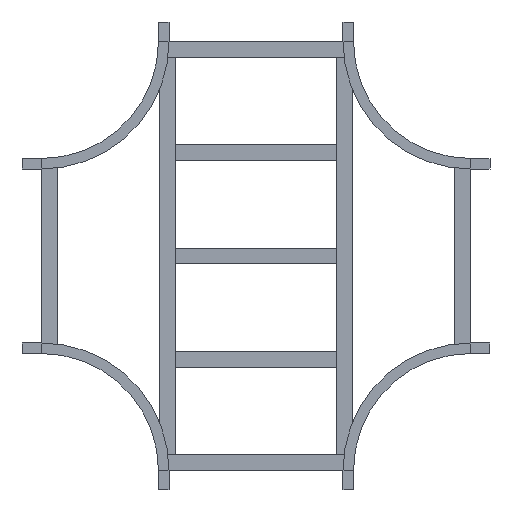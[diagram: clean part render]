
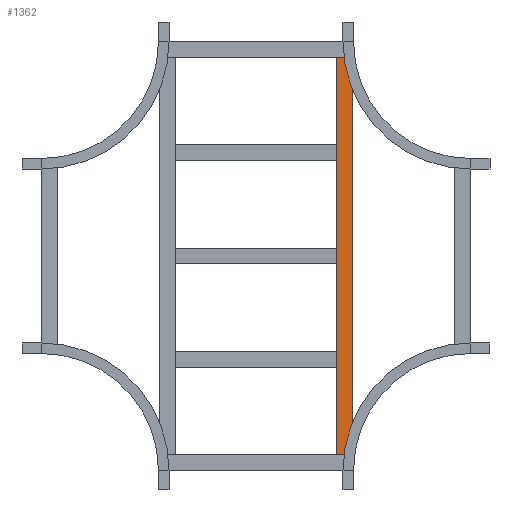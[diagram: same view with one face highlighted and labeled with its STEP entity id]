
A CAD part, front view. The second image highlights one B-rep face of the part: STEP entity #1362.
In plain terms, the highlighted planar face has unit normal (0, -1, 0).
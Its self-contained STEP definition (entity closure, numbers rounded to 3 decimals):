
#18 = VERTEX_POINT ( 'NONE', #494 ) ;
#53 = CARTESIAN_POINT ( 'NONE',  ( 509.5, 0., 20.25 ) ) ;
#89 = CARTESIAN_POINT ( 'NONE',  ( 509.5, 0., -20.25 ) ) ;
#136 = DIRECTION ( 'NONE',  ( -1., 0., 0. ) ) ;
#144 = DIRECTION ( 'NONE',  ( -1., 0., 0. ) ) ;
#150 = VECTOR ( 'NONE', #136, 1000. ) ;
#152 = EDGE_CURVE ( 'NONE', #934, #997, #777, .T. ) ;
#169 = VECTOR ( 'NONE', #144, 1000. ) ;
#171 = VECTOR ( 'NONE', #480, 1000. ) ;
#177 = ORIENTED_EDGE ( 'NONE', *, *, #152, .T. ) ;
#248 = DIRECTION ( 'NONE',  ( 0., 1., 0. ) ) ;
#332 = EDGE_CURVE ( 'NONE', #997, #18, #1358, .T. ) ;
#470 = AXIS2_PLACEMENT_3D ( 'NONE', #683, #248, #676 ) ;
#480 = DIRECTION ( 'NONE',  ( 0., 0., -1. ) ) ;
#494 = CARTESIAN_POINT ( 'NONE',  ( -509.5, 0., -20.25 ) ) ;
#580 = ORIENTED_EDGE ( 'NONE', *, *, #332, .T. ) ;
#676 = DIRECTION ( 'NONE',  ( 0., 0., 1. ) ) ;
#681 = VERTEX_POINT ( 'NONE', #699 ) ;
#683 = CARTESIAN_POINT ( 'NONE',  ( 509.5, 0., 20.25 ) ) ;
#686 = EDGE_CURVE ( 'NONE', #934, #681, #864, .T. ) ;
#697 = PLANE ( 'NONE',  #470 ) ;
#698 = EDGE_CURVE ( 'NONE', #681, #18, #1044, .T. ) ;
#699 = CARTESIAN_POINT ( 'NONE',  ( 509.5, 0., -20.25 ) ) ;
#777 = LINE ( 'NONE', #1326, #169 ) ;
#815 = CARTESIAN_POINT ( 'NONE',  ( -509.5, 0., 20.25 ) ) ;
#837 = CARTESIAN_POINT ( 'NONE',  ( 509.5, 0., 20.25 ) ) ;
#864 = LINE ( 'NONE', #837, #931 ) ;
#906 = FACE_OUTER_BOUND ( 'NONE', #965, .T. ) ;
#931 = VECTOR ( 'NONE', #1182, 1000. ) ;
#934 = VERTEX_POINT ( 'NONE', #53 ) ;
#965 = EDGE_LOOP ( 'NONE', ( #580, #1202, #1331, #177 ) ) ;
#997 = VERTEX_POINT ( 'NONE', #815 ) ;
#1044 = LINE ( 'NONE', #89, #150 ) ;
#1125 = CARTESIAN_POINT ( 'NONE',  ( -509.5, 0., 20.25 ) ) ;
#1182 = DIRECTION ( 'NONE',  ( 0., 0., -1. ) ) ;
#1202 = ORIENTED_EDGE ( 'NONE', *, *, #698, .F. ) ;
#1326 = CARTESIAN_POINT ( 'NONE',  ( 509.5, 0., 20.25 ) ) ;
#1331 = ORIENTED_EDGE ( 'NONE', *, *, #686, .F. ) ;
#1358 = LINE ( 'NONE', #1125, #171 ) ;
#1362 = ADVANCED_FACE ( 'NONE', ( #906 ), #697, .F. ) ;
